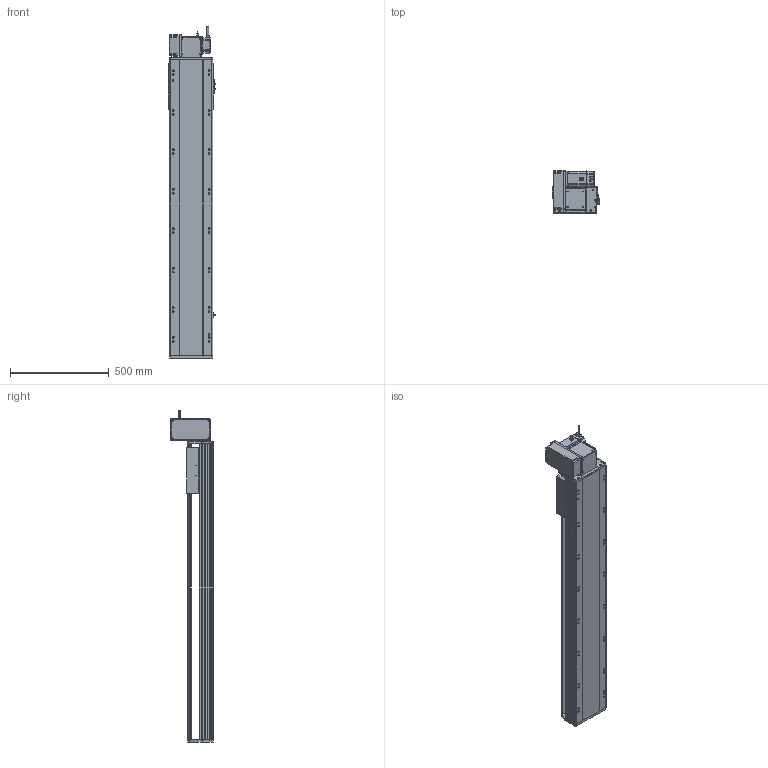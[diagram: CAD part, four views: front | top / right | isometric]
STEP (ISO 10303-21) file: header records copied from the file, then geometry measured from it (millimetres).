
FILE_DESCRIPTION (( 'STEP AP214' ), '1' );
FILE_NAME ('RTB22S-XX-1150-LW-M75-C4.STEP', '2025-12-12T05:56:06', ( '' ), ( '' ), 'SwSTEP 2.0', 'SolidWorks 2018', '' );
FILE_SCHEMA (( 'AUTOMOTIVE_DESIGN' ));
Length unit declared in the file: millimetre
Products named in the file (14): RTB22S-L-011菁釱^RTB22S-XX-XX-LW-M75-C4; RTB22S-GY-005P^RTB22S-LW-々湍釱蚾饜_RTB22S-XX-XX-LW-M75-C4; RTB22S-LW-々湍釱蚾饜^RTB22S-XX-XX-LW-M75-C4; RTB22S-GY-018P^RTB22S-LW-々湍釱蚾饜_RTB22S-XX-XX-LW-M75-C4; RTB22S-GY-007奻裔^RTB22S-XX-XX-LW-M75-C4; RTB22S-L-004賑釱^RTB22S-XX-XX-LW-M75-C4; RTB22S-GY-008-M75--萇儂啣^RTB22S-LW-々湍釱蚾饜_RTB22S-XX-XX-LW-M75-C4; RTB22S-GY-017P^RTB22S-LW-々湍釱蚾饜_RTB22S-XX-XX-LW-M75-C4; RTB22S-GY-014--々湍釱^RTB22S-LW-々湍釱蚾饜_RTB22S-XX-XX-LW-M75-C4; 750W萇儂^RTB22S-XX-XX-LW-M75-C4; RTB22S-GY-001耜裔^RTB22S-XX-XX-LW-M75-C4; OMRON EE-SX672 传感器^RTB22S-XX-XX-LW-M75-C4; RTB22S-XX-1150-LW-M75-C4; RTH22-GY-013外置感应片^RTB22S-XX-XX-LW-M75-C4
Assembly tree (16 placements, depth 3):
  RTB22S-XX-1150-LW-M75-C4
    RTB22S-L-011菁釱^RTB22S-XX-XX-LW-M75-C4
    RTB22S-GY-001耜裔^RTB22S-XX-XX-LW-M75-C4
    750W萇儂^RTB22S-XX-XX-LW-M75-C4
    RTB22S-GY-007奻裔^RTB22S-XX-XX-LW-M75-C4
    RTB22S-L-004賑釱^RTB22S-XX-XX-LW-M75-C4
    RTH22-GY-013外置感应片^RTB22S-XX-XX-LW-M75-C4
    OMRON EE-SX672 传感器^RTB22S-XX-XX-LW-M75-C4  x3
    RTB22S-LW-々湍釱蚾饜^RTB22S-XX-XX-LW-M75-C4
      RTB22S-GY-014--々湍釱^RTB22S-LW-々湍釱蚾饜_RTB22S-XX-XX-LW-M75-C4
      RTB22S-GY-017P^RTB22S-LW-々湍釱蚾饜_RTB22S-XX-XX-LW-M75-C4  x2
      RTB22S-GY-005P^RTB22S-LW-々湍釱蚾饜_RTB22S-XX-XX-LW-M75-C4
      RTB22S-GY-008-M75--萇儂啣^RTB22S-LW-々湍釱蚾饜_RTB22S-XX-XX-LW-M75-C4
      RTB22S-GY-018P^RTB22S-LW-々湍釱蚾饜_RTB22S-XX-XX-LW-M75-C4
Bounding box: 238.5 x 215.5 x 1682.2 mm (x, y, z)
Volume: 23037995.4 mm3; surface area: 2390665.7 mm2
Topology: 15 solids, 15 shells, 1983 faces, 5386 edges, 3452 vertices
Faces by surface type: plane 915, cylinder 622, bspline 296, cone 138, sphere 8, torus 4
Entity records: 52768 total; most frequent: CARTESIAN_POINT 15172, ORIENTED_EDGE 7560, DIRECTION 7274, EDGE_CURVE 3780, AXIS2_PLACEMENT_3D 2566, VERTEX_POINT 2456, VECTOR 2142, LINE 2142
